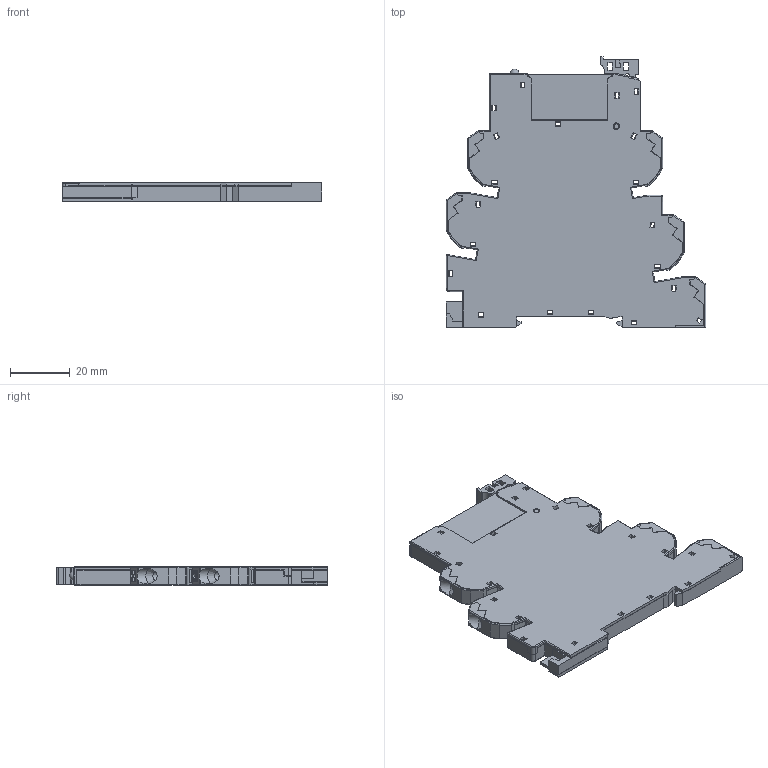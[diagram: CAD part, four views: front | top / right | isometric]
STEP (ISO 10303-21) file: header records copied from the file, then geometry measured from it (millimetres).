
FILE_DESCRIPTION( ( 'Unknown' ), '1' );
FILE_NAME( 'C:/Users/pdellaca/Desktop/Mezzacappa 93.6x push-in/3900.stp', 'Unknown', ( 'Unknown' ), ( 'Unknown' ), 'PSStep 15.0.49', 'Unknown', ' ' );
FILE_SCHEMA( ( 'AUTOMOTIVE_DESIGN { 1 0 10303 214 1 1 1 1 }' ) );
Length unit declared in the file: millimetre
Products named in the file (4): top; Master BASIC 93
Bounding box: 87 x 90.7 x 6.15 mm (x, y, z)
Surface area: 26391.3 mm2 (no closed solid volume)
Topology: 0 solids, 883 shells, 883 faces, 6036 edges, 6005 vertices
Faces by surface type: plane 656, cylinder 194, sphere 19, cone 12, torus 2
Full cylindrical faces by diameter (mm): 2 x2, 2.2 x2, 2.8 x5
Entity records: 63323 total; most frequent: CARTESIAN_POINT 13097, DIRECTION 8491, VERTEX_POINT 5995, ORIENTED_EDGE 5994, EDGE_CURVE 5994, LINE 5185, VECTOR 5185, AXIS2_PLACEMENT_3D 1653
